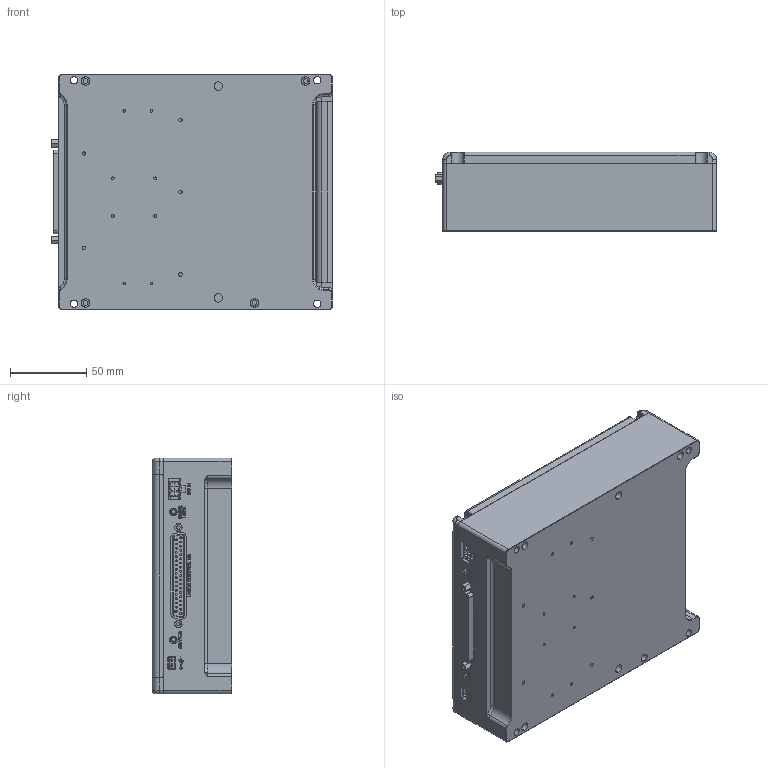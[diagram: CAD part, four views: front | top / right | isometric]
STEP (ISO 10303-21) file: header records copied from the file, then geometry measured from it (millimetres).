
FILE_DESCRIPTION (( 'STEP AP214' ), '1' );
FILE_NAME ('CellX.STEP', '2017-01-06T21:03:00', ( '' ), ( '' ), 'SwSTEP 2.0', 'SolidWorks 2016', '' );
FILE_SCHEMA (( 'AUTOMOTIVE_DESIGN' ));
Length unit declared in the file: inch
Products named in the file (1): CellX
Bounding box: 184.75 x 52.2 x 155 mm (x, y, z)
Surface area: 124685.6 mm2 (no closed solid volume)
Topology: 0 solids, 85 shells, 754 faces, 3823 edges, 3097 vertices
Faces by surface type: plane 406, cylinder 230, bspline 65, cone 41, torus 12
Entity records: 59281 total; most frequent: CARTESIAN_POINT 21234, ORIENTED_EDGE 5214, DIRECTION 5051, EDGE_CURVE 3819, VERTEX_POINT 3097, LINE 2309, VECTOR 2309, AXIS2_PLACEMENT_3D 1371
